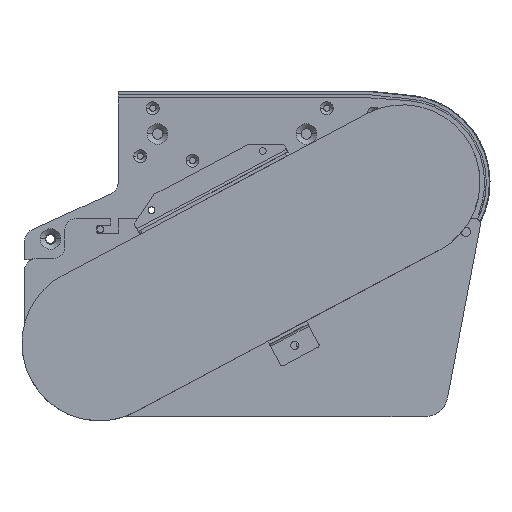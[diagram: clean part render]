
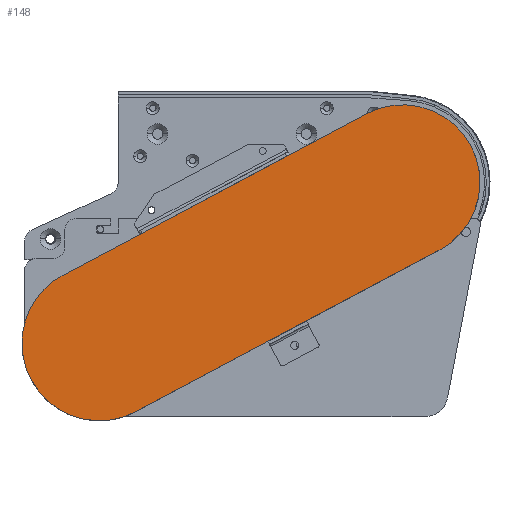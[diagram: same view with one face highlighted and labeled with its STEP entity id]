
A CAD part, top view. The second image highlights one B-rep face of the part: STEP entity #148.
In plain terms, the highlighted planar face has unit normal (0, 0, 1).
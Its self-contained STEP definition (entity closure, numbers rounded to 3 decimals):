
#127 = EDGE_CURVE ( 'NONE', #4775, #13338, #19202, .T. ) ;
#148 = ADVANCED_FACE ( 'NONE', ( #14751 ), #4315, .T. ) ;
#340 = ORIENTED_EDGE ( 'NONE', *, *, #5754, .T. ) ;
#873 = CIRCLE ( 'NONE', #5926, 67.49 ) ;
#934 = CIRCLE ( 'NONE', #18267, 67.49 ) ;
#986 = VERTEX_POINT ( 'NONE', #11272 ) ;
#1115 = CARTESIAN_POINT ( 'NONE',  ( 59.604, 31.658, 85. ) ) ;
#1366 = DIRECTION ( 'NONE',  ( 1., 0., 0. ) ) ;
#1398 = DIRECTION ( 'NONE',  ( 0.883, 0.469, 0. ) ) ;
#1575 = EDGE_CURVE ( 'NONE', #16074, #6476, #17721, .T. ) ;
#1646 = CARTESIAN_POINT ( 'NONE',  ( -296.568, -81.274, 85. ) ) ;
#1858 = CARTESIAN_POINT ( 'NONE',  ( -324.473, -172.571, 85. ) ) ;
#2300 = LINE ( 'NONE', #3980, #8603 ) ;
#2467 = CIRCLE ( 'NONE', #13340, 67.5 ) ;
#2502 = EDGE_LOOP ( 'NONE', ( #6666, #12703, #7837, #7331, #8236, #2620, #12756, #13331, #340 ) ) ;
#2565 = DIRECTION ( 'NONE',  ( 1., 0., 0. ) ) ;
#2620 = ORIENTED_EDGE ( 'NONE', *, *, #12697, .T. ) ;
#2682 = CARTESIAN_POINT ( 'NONE',  ( -233.198, -200.477, 85. ) ) ;
#3021 = CARTESIAN_POINT ( 'NONE',  ( -332.379, -140.873, 85. ) ) ;
#3110 = VERTEX_POINT ( 'NONE', #12158 ) ;
#3428 = AXIS2_PLACEMENT_3D ( 'NONE', #11538, #5677, #2565 ) ;
#3683 = VERTEX_POINT ( 'NONE', #9099 ) ;
#3980 = CARTESIAN_POINT ( 'NONE',  ( -324.478, -172.562, 85. ) ) ;
#4046 = DIRECTION ( 'NONE',  ( 0.469, -0.883, 0. ) ) ;
#4315 = PLANE ( 'NONE',  #3428 ) ;
#4363 = CARTESIAN_POINT ( 'NONE',  ( 59.609, 31.649, 85. ) ) ;
#4775 = VERTEX_POINT ( 'NONE', #1646 ) ;
#5464 = EDGE_CURVE ( 'NONE', #13453, #986, #934, .T. ) ;
#5677 = DIRECTION ( 'NONE',  ( 0., 0., 1. ) ) ;
#5754 = EDGE_CURVE ( 'NONE', #3683, #13453, #2300, .T. ) ;
#5842 = CARTESIAN_POINT ( 'NONE',  ( -31.684, 59.567, 85. ) ) ;
#5926 = AXIS2_PLACEMENT_3D ( 'NONE', #17064, #8065, #10986 ) ;
#6200 = EDGE_CURVE ( 'NONE', #13338, #3683, #15636, .T. ) ;
#6476 = VERTEX_POINT ( 'NONE', #1115 ) ;
#6594 = CARTESIAN_POINT ( 'NONE',  ( -264.883, -140.887, 85. ) ) ;
#6666 = ORIENTED_EDGE ( 'NONE', *, *, #5464, .T. ) ;
#7170 = CARTESIAN_POINT ( 'NONE',  ( -264.879, -140.873, 85. ) ) ;
#7331 = ORIENTED_EDGE ( 'NONE', *, *, #1575, .T. ) ;
#7334 = CARTESIAN_POINT ( 'NONE',  ( 0.006, -0.032, 85. ) ) ;
#7476 = EDGE_CURVE ( 'NONE', #6476, #18625, #2467, .T. ) ;
#7828 = CARTESIAN_POINT ( 'NONE',  ( 59.609, 31.649, 85. ) ) ;
#7837 = ORIENTED_EDGE ( 'NONE', *, *, #12181, .T. ) ;
#8065 = DIRECTION ( 'NONE',  ( 0., 0., 1. ) ) ;
#8109 = DIRECTION ( 'NONE',  ( 1., 0., 0. ) ) ;
#8182 = AXIS2_PLACEMENT_3D ( 'NONE', #9997, #14657, #8558 ) ;
#8236 = ORIENTED_EDGE ( 'NONE', *, *, #7476, .T. ) ;
#8251 = CARTESIAN_POINT ( 'NONE',  ( -31.684, 59.567, 85. ) ) ;
#8558 = DIRECTION ( 'NONE',  ( 1., 0., 0. ) ) ;
#8603 = VECTOR ( 'NONE', #4046, 1000. ) ;
#9099 = CARTESIAN_POINT ( 'NONE',  ( -324.478, -172.562, 85. ) ) ;
#9997 = CARTESIAN_POINT ( 'NONE',  ( -264.879, -140.873, 85. ) ) ;
#10986 = DIRECTION ( 'NONE',  ( 1., 0., 0. ) ) ;
#11272 = CARTESIAN_POINT ( 'NONE',  ( -233.198, -200.477, 85. ) ) ;
#11538 = CARTESIAN_POINT ( 'NONE',  ( -264.883, -140.887, 85. ) ) ;
#11969 = LINE ( 'NONE', #2682, #17626 ) ;
#12158 = CARTESIAN_POINT ( 'NONE',  ( 31.704, -59.626, 85. ) ) ;
#12181 = EDGE_CURVE ( 'NONE', #3110, #16074, #873, .T. ) ;
#12697 = EDGE_CURVE ( 'NONE', #18625, #4775, #17449, .T. ) ;
#12703 = ORIENTED_EDGE ( 'NONE', *, *, #13702, .T. ) ;
#12756 = ORIENTED_EDGE ( 'NONE', *, *, #127, .T. ) ;
#13331 = ORIENTED_EDGE ( 'NONE', *, *, #6200, .T. ) ;
#13338 = VERTEX_POINT ( 'NONE', #3021 ) ;
#13340 = AXIS2_PLACEMENT_3D ( 'NONE', #7334, #16259, #1366 ) ;
#13453 = VERTEX_POINT ( 'NONE', #1858 ) ;
#13702 = EDGE_CURVE ( 'NONE', #986, #3110, #11969, .T. ) ;
#14007 = AXIS2_PLACEMENT_3D ( 'NONE', #7170, #16192, #17702 ) ;
#14657 = DIRECTION ( 'NONE',  ( 0., 0., 1. ) ) ;
#14751 = FACE_OUTER_BOUND ( 'NONE', #2502, .T. ) ;
#14870 = VECTOR ( 'NONE', #16344, 1000. ) ;
#15636 = CIRCLE ( 'NONE', #14007, 67.5 ) ;
#16074 = VERTEX_POINT ( 'NONE', #4363 ) ;
#16192 = DIRECTION ( 'NONE',  ( 0., 0., 1. ) ) ;
#16259 = DIRECTION ( 'NONE',  ( 0., 0., 1. ) ) ;
#16344 = DIRECTION ( 'NONE',  ( -0.883, -0.469, 0. ) ) ;
#16784 = VECTOR ( 'NONE', #18317, 1000. ) ;
#17064 = CARTESIAN_POINT ( 'NONE',  ( 0.019, -0.036, 85. ) ) ;
#17173 = DIRECTION ( 'NONE',  ( 0., 0., 1. ) ) ;
#17449 = LINE ( 'NONE', #5842, #14870 ) ;
#17626 = VECTOR ( 'NONE', #1398, 1000. ) ;
#17702 = DIRECTION ( 'NONE',  ( 1., 0., 0. ) ) ;
#17721 = LINE ( 'NONE', #7828, #16784 ) ;
#18267 = AXIS2_PLACEMENT_3D ( 'NONE', #6594, #17173, #8109 ) ;
#18317 = DIRECTION ( 'NONE',  ( -0.469, 0.883, 0. ) ) ;
#18625 = VERTEX_POINT ( 'NONE', #8251 ) ;
#19202 = CIRCLE ( 'NONE', #8182, 67.5 ) ;
